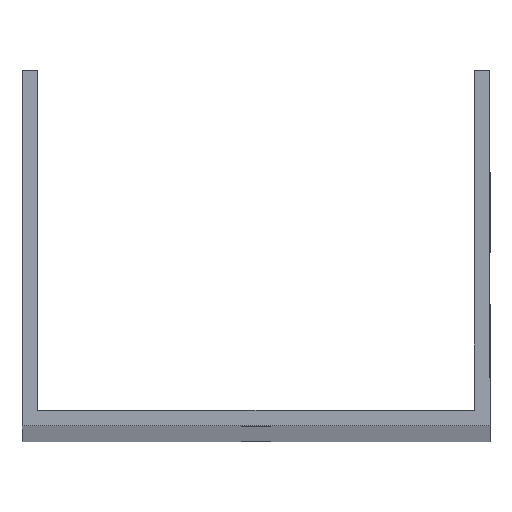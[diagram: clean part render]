
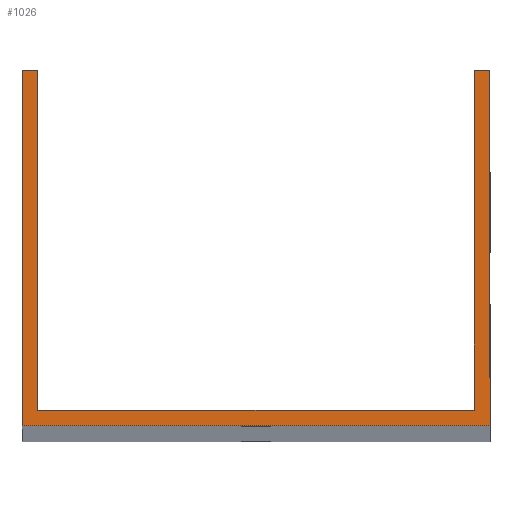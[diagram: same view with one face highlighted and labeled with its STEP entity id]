
A CAD part, top view. The second image highlights one B-rep face of the part: STEP entity #1026.
In plain terms, the highlighted planar face has unit normal (0, 0, 1).
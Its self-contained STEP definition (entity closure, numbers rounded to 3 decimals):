
#111 = CARTESIAN_POINT ( 'NONE',  ( -52., 79., 1000. ) ) ;
#113 = VERTEX_POINT ( 'NONE', #1430 ) ;
#120 = CARTESIAN_POINT ( 'NONE',  ( -48.5, 79., 1000. ) ) ;
#172 = VERTEX_POINT ( 'NONE', #653 ) ;
#192 = DIRECTION ( 'NONE',  ( 1., 0., 0. ) ) ;
#203 = CARTESIAN_POINT ( 'NONE',  ( 48.5, 79., 1000. ) ) ;
#208 = CARTESIAN_POINT ( 'NONE',  ( -52., 3.5, 1000. ) ) ;
#262 = VERTEX_POINT ( 'NONE', #615 ) ;
#293 = LINE ( 'NONE', #572, #360 ) ;
#296 = ORIENTED_EDGE ( 'NONE', *, *, #1197, .T. ) ;
#311 = DIRECTION ( 'NONE',  ( 0., 0., 1. ) ) ;
#318 = EDGE_CURVE ( 'NONE', #262, #172, #1263, .T. ) ;
#334 = CARTESIAN_POINT ( 'NONE',  ( 52., 79., 1000. ) ) ;
#352 = EDGE_CURVE ( 'NONE', #113, #955, #1509, .T. ) ;
#360 = VECTOR ( 'NONE', #951, 1000. ) ;
#364 = EDGE_CURVE ( 'NONE', #1373, #761, #1382, .T. ) ;
#369 = CARTESIAN_POINT ( 'NONE',  ( -48.5, 3.5, 1000. ) ) ;
#437 = DIRECTION ( 'NONE',  ( 1., 0., 0. ) ) ;
#438 = VECTOR ( 'NONE', #630, 1000. ) ;
#444 = EDGE_CURVE ( 'NONE', #761, #955, #1106, .T. ) ;
#531 = ORIENTED_EDGE ( 'NONE', *, *, #444, .T. ) ;
#572 = CARTESIAN_POINT ( 'NONE',  ( -52., 0., 1000. ) ) ;
#595 = CARTESIAN_POINT ( 'NONE',  ( -52., 0., 1000. ) ) ;
#615 = CARTESIAN_POINT ( 'NONE',  ( -48.5, 79., 1000. ) ) ;
#624 = VECTOR ( 'NONE', #1271, 1000. ) ;
#630 = DIRECTION ( 'NONE',  ( 0., -1., 0. ) ) ;
#646 = EDGE_CURVE ( 'NONE', #1544, #1373, #293, .T. ) ;
#653 = CARTESIAN_POINT ( 'NONE',  ( -52., 79., 1000. ) ) ;
#658 = CARTESIAN_POINT ( 'NONE',  ( 52., 0., 1000. ) ) ;
#663 = ORIENTED_EDGE ( 'NONE', *, *, #793, .F. ) ;
#666 = CARTESIAN_POINT ( 'NONE',  ( 48.5, 79., 1000. ) ) ;
#686 = FACE_OUTER_BOUND ( 'NONE', #1474, .T. ) ;
#705 = CARTESIAN_POINT ( 'NONE',  ( 52., 79., 1000. ) ) ;
#720 = DIRECTION ( 'NONE',  ( 0., 1., 0. ) ) ;
#728 = LINE ( 'NONE', #208, #1002 ) ;
#740 = DIRECTION ( 'NONE',  ( 0., 1., 0. ) ) ;
#755 = VECTOR ( 'NONE', #1429, 1000. ) ;
#761 = VERTEX_POINT ( 'NONE', #705 ) ;
#793 = EDGE_CURVE ( 'NONE', #1620, #113, #728, .T. ) ;
#879 = CARTESIAN_POINT ( 'NONE',  ( -52., 79., 1000. ) ) ;
#916 = VECTOR ( 'NONE', #1637, 1000. ) ;
#921 = EDGE_CURVE ( 'NONE', #262, #1620, #1278, .T. ) ;
#947 = AXIS2_PLACEMENT_3D ( 'NONE', #1048, #311, #437 ) ;
#951 = DIRECTION ( 'NONE',  ( 1., 0., 0. ) ) ;
#955 = VERTEX_POINT ( 'NONE', #666 ) ;
#1002 = VECTOR ( 'NONE', #192, 1000. ) ;
#1026 = ADVANCED_FACE ( 'NONE', ( #686 ), #1207, .T. ) ;
#1048 = CARTESIAN_POINT ( 'NONE',  ( 0., 0., 1000. ) ) ;
#1088 = ORIENTED_EDGE ( 'NONE', *, *, #364, .T. ) ;
#1106 = LINE ( 'NONE', #879, #624 ) ;
#1134 = LINE ( 'NONE', #1397, #755 ) ;
#1189 = VECTOR ( 'NONE', #740, 1000. ) ;
#1197 = EDGE_CURVE ( 'NONE', #172, #1544, #1134, .T. ) ;
#1207 = PLANE ( 'NONE',  #947 ) ;
#1222 = ORIENTED_EDGE ( 'NONE', *, *, #318, .T. ) ;
#1263 = LINE ( 'NONE', #111, #916 ) ;
#1271 = DIRECTION ( 'NONE',  ( -1., 0., 0. ) ) ;
#1278 = LINE ( 'NONE', #120, #438 ) ;
#1283 = ORIENTED_EDGE ( 'NONE', *, *, #352, .F. ) ;
#1284 = ORIENTED_EDGE ( 'NONE', *, *, #921, .F. ) ;
#1373 = VERTEX_POINT ( 'NONE', #658 ) ;
#1382 = LINE ( 'NONE', #334, #1189 ) ;
#1397 = CARTESIAN_POINT ( 'NONE',  ( -52., 79., 1000. ) ) ;
#1429 = DIRECTION ( 'NONE',  ( 0., -1., 0. ) ) ;
#1430 = CARTESIAN_POINT ( 'NONE',  ( 48.5, 3.5, 1000. ) ) ;
#1474 = EDGE_LOOP ( 'NONE', ( #1284, #1222, #296, #1587, #1088, #531, #1283, #663 ) ) ;
#1509 = LINE ( 'NONE', #203, #1543 ) ;
#1543 = VECTOR ( 'NONE', #720, 1000. ) ;
#1544 = VERTEX_POINT ( 'NONE', #595 ) ;
#1587 = ORIENTED_EDGE ( 'NONE', *, *, #646, .T. ) ;
#1620 = VERTEX_POINT ( 'NONE', #369 ) ;
#1637 = DIRECTION ( 'NONE',  ( -1., 0., 0. ) ) ;
